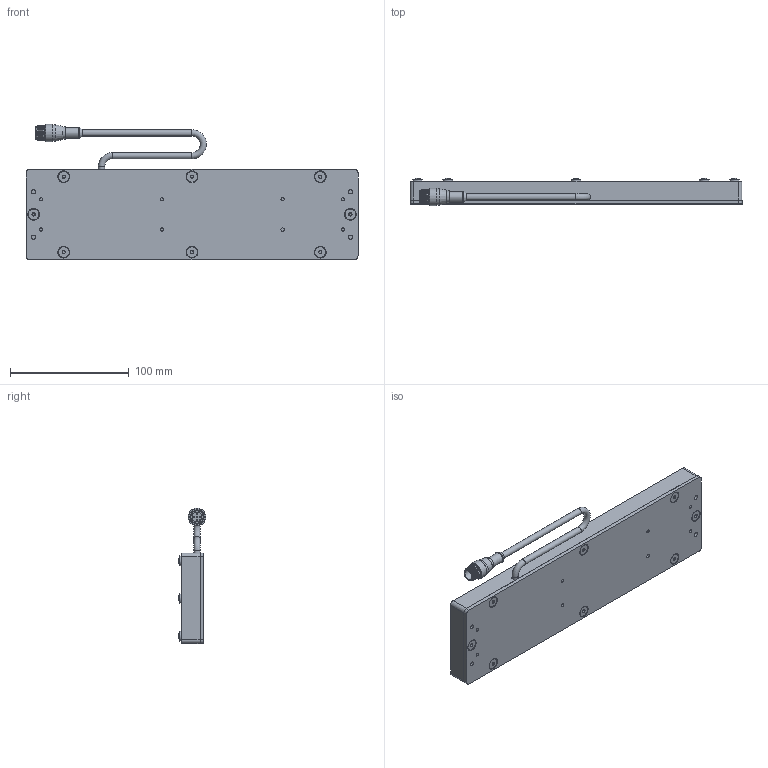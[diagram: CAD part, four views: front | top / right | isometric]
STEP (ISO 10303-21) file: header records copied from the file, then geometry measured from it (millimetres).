
FILE_DESCRIPTION (( 'STEP AP214' ), '1' );
FILE_NAME ('SBL210-XXX.STEP', '2026-04-17T16:39:32', ( '' ), ( '' ), 'SwSTEP 2.0', 'SolidWorks 2025', '' );
FILE_SCHEMA (( 'AUTOMOTIVE_DESIGN' ));
Length unit declared in the file: inch
Products named in the file (10): 8-32 x .375 Nylon Screw_.375" 94611A192; Hex Standoff X.X x 8-32_0.375; BackPlate BLYYXX_0210; SC Pigtail Complete 18_5pin; MC Pigtail 24; 8-32 x 0.375 FHCS (92210A192)_92210A192; SBL210-XXX; WD-SBLYYXX_2x10 with holes; Housing SBL210; M12 Connector 4,5 and 8 pin_RS4.5T
Assembly tree (30 placements, depth 3):
  SBL210-XXX
    Housing SBL210
    BackPlate BLYYXX_0210
    SC Pigtail Complete 18_5pin
      MC Pigtail 24
      M12 Connector 4,5 and 8 pin_RS4.5T
    WD-SBLYYXX_2x10 with holes
    Hex Standoff X.X x 8-32_0.375  x8
    8-32 x 0.375 FHCS (92210A192)_92210A192  x8
    8-32 x .375 Nylon Screw_.375" 94611A192  x8
Bounding box: 279.4 x 23.12 x 113.99 mm (x, y, z)
Volume: 241758.3 mm3; surface area: 140225.7 mm2
Topology: 29 solids, 29 shells, 860 faces, 2116 edges, 1347 vertices
Faces by surface type: plane 315, bspline 216, cylinder 148, cone 147, torus 21, sphere 13
Full cylindrical faces by diameter (mm): 0.762 x5, 2.705 x8, 3.454 x12, 4.496 x24, 5.207 x3, 6.604 x4, 6.858 x8, 8.128 x8, 8.382 x1, 8.636 x1, 9.119 x8, 10.16 x1, 10.541 x1, 11.938 x1, 13.716 x2, 14.732 x1
Entity records: 12968 total; most frequent: CARTESIAN_POINT 5128, DIRECTION 1316, ORIENTED_EDGE 1098, AXIS2_PLACEMENT_3D 560, EDGE_CURVE 549, EDGE_LOOP 506, VERTEX_POINT 417, FACE_OUTER_BOUND 365
